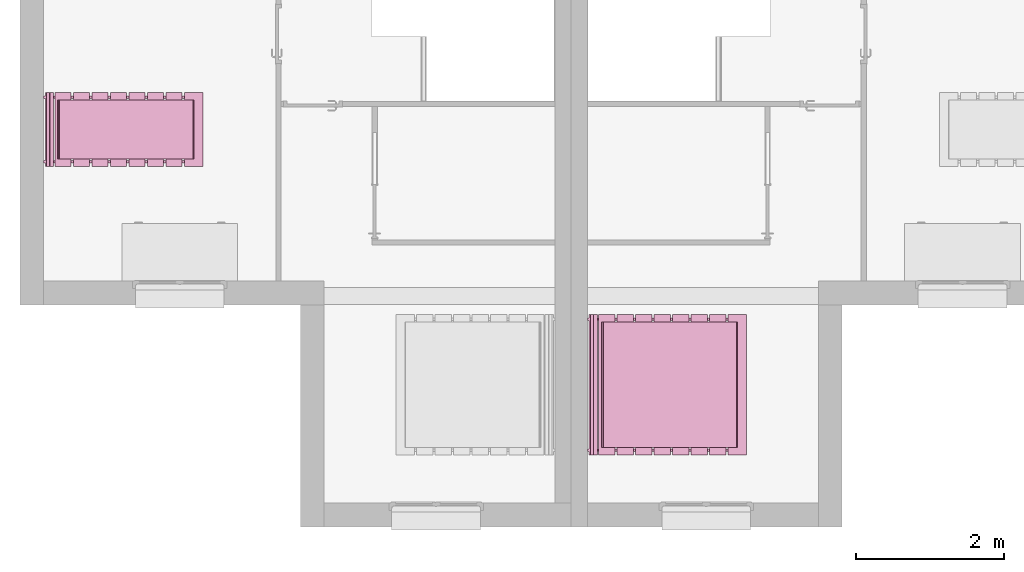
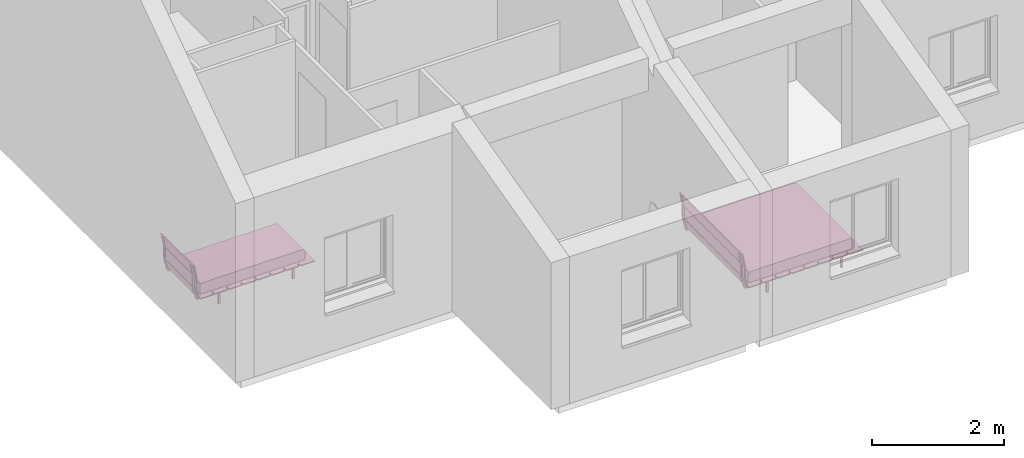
# One storey, part 43 of 50: 2 furnishings.
"""IFC2X3 building model written with IfcOpenShell, lengths in metres."""

from ifc_helpers import new_model, entity, si_unit, converted_unit, derived_unit, direction, frame, frame_2d, origin, origin_2d_with_axis, place, context, subcontext, project, spatial, polyline, circle_curve, parameter, trimmed, segment, composite_curve, rectangle, outline, extrude, source, transform, mapped, material, material_list, type_object, type_shapes, element, save


model = new_model("IFC2X3")

# Units and contexts
model_context = context("Model", 3, precision=1e-05, world=origin(), true_north=direction((6.12303176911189e-17, 1.0)))
context_of_model = context(None, 3, precision=1e-05, world=origin(), true_north=direction((6.12303176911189e-17, 1.0)))
body_context = subcontext(model_context, "Body", "Model", "MODEL_VIEW")
ifc_project = project(units=[si_unit("LENGTHUNIT", "METRE"), si_unit("AREAUNIT", "SQUARE_METRE"), si_unit("VOLUMEUNIT", "CUBIC_METRE"), converted_unit("PLANEANGLEUNIT", "DEGREE", entity("IfcRatioMeasure", 0.0174532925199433), si_unit("PLANEANGLEUNIT", "RADIAN"), dimensions=[0, 0, 0, 0, 0, 0, 0]), si_unit("MASSUNIT", "GRAM", prefix="KILO"), si_unit("TIMEUNIT", "SECOND"), si_unit("FREQUENCYUNIT", "HERTZ"), si_unit("THERMODYNAMICTEMPERATUREUNIT", "DEGREE_CELSIUS"), derived_unit("THERMALTRANSMITTANCEUNIT", [(si_unit("MASSUNIT", "GRAM", prefix="KILO"), 1), (si_unit("THERMODYNAMICTEMPERATUREUNIT", "KELVIN"), -1), (si_unit("TIMEUNIT", "SECOND"), -3)]), derived_unit("VOLUMETRICFLOWRATEUNIT", [(si_unit("LENGTHUNIT", "METRE"), 3), (si_unit("TIMEUNIT", "SECOND"), -1)]), si_unit("ELECTRICCURRENTUNIT", "AMPERE"), si_unit("ELECTRICVOLTAGEUNIT", "VOLT"), si_unit("POWERUNIT", "WATT"), si_unit("FORCEUNIT", "NEWTON", prefix="KILO"), si_unit("ILLUMINANCEUNIT", "LUX"), si_unit("LUMINOUSFLUXUNIT", "LUMEN"), si_unit("LUMINOUSINTENSITYUNIT", "CANDELA"), si_unit("PRESSUREUNIT", "PASCAL")], contexts=[model_context, context_of_model])

# Site, building, storey
site_placement = place(None, origin())
site = spatial("IfcSite", under=ifc_project, at=site_placement, Name="Surface", CompositionType="ELEMENT")
building_placement = place(site_placement, origin())
building = spatial("IfcBuilding", under=site, at=building_placement, CompositionType="ELEMENT")
storey_placement = place(building_placement, frame((0.0, 0.0, 2.82)))
storey = spatial("IfcBuildingStorey", under=building, at=storey_placement, Name="ETAGE", CompositionType="ELEMENT", Elevation=2.82)

# Furnishings
ifc_material_1 = material(Name="Textile - Bleu pâle")
ifc_material_2 = material(Name="Bois - Teck")
ifc_material_3 = material(Name="Plastique - Noir")
ifc_material_list_1 = material_list([ifc_material_1, ifc_material_2, ifc_material_3])
ifc_material_list_2 = material_list([ifc_material_1, ifc_material_2, ifc_material_3])
furniture_type_1 = type_object("IfcFurnitureType", Name="1900 mm x 2000 mm", AssemblyPlace="NOTDEFINED", material=ifc_material_list_2)
shared_shape_1 = source(origin(), body_context, "Body", "SweptSolid", [
    extrude(outline(composite_curve([segment(polyline([(-0.755361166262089, -0.0846796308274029), (0.695178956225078, -0.0846796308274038)]), True, "CONTINUOUS"), segment(polyline([(0.695178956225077, -0.0846796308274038), (0.816394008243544, -0.078623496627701)]), True, "CONTINUOUS"), segment(polyline([(0.816394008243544, -0.078623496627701), (0.842657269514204, -0.0725673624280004)]), True, "CONTINUOUS"), segment(polyline([(0.842657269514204, -0.0725673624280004), (0.856799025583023, -0.0624738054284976)]), True, "CONTINUOUS"), segment(polyline([(0.856799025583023, -0.0624738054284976), (0.862859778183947, -0.0443054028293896)]), True, "CONTINUOUS"), segment(polyline([(0.862859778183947, -0.0443054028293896), (0.866900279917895, -0.0120060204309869)]), True, "CONTINUOUS"), segment(polyline([(0.866900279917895, -0.0120060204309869), (0.866900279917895, 0.0747985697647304)]), True, "CONTINUOUS"), segment(polyline([(0.866900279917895, 0.0747985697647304), (0.862859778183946, 0.105079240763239)]), True, "CONTINUOUS"), segment(polyline([(0.862859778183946, 0.105079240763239), (0.856799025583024, 0.113154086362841)]), True, "CONTINUOUS"), segment(polyline([(0.856799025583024, 0.113154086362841), (0.836596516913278, 0.117191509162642)]), True, "CONTINUOUS"), segment(polyline([(0.836596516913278, 0.117191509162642), (-0.953345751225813, 0.117191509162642)]), True, "CONTINUOUS"), segment(polyline([(-0.953345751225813, 0.117191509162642), (-0.969507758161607, 0.115172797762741)]), True, "CONTINUOUS"), segment(polyline([(-0.969507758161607, 0.115172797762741), (-0.971528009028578, 0.103060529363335)]), True, "CONTINUOUS"), segment(polyline([(-0.971528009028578, 0.103060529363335), (-0.971528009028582, -0.0160434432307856)]), True, "CONTINUOUS"), segment(trimmed(circle_curve(frame_2d((-0.76779044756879, -0.0160434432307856), x_axis=(-1.0, 0.0)), 0.203737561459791), [parameter(360.0)], [parameter(11.4298384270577)], True, "PARAMETER"), True, "CONTINUOUS"), segment(trimmed(circle_curve(frame_2d((-0.944467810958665, -0.0517636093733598), x_axis=(-1.0, 0.0)), 0.0234854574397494), [parameter(11.4298384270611)], [parameter(62.3518913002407)], True, "PARAMETER"), True, "CONTINUOUS"), segment(trimmed(circle_curve(frame_2d((-0.929629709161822, -0.0234388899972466), x_axis=(-1.0, 0.0)), 0.0554613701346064), [parameter(62.35189130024)], [parameter(84.2736549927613)], True, "PARAMETER"), True, "CONTINUOUS"), segment(trimmed(circle_curve(frame_2d((-0.809859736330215, 1.1709442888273), x_axis=(-1.0, 0.0)), 1.25583465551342), [parameter(84.2736549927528)], [parameter(86.5854437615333)], True, "PARAMETER"), True, "CONTINUOUS"), segment(polyline([(-0.884657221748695, -0.0826609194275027), (-0.755361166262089, -0.0846796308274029)]), True, "CONTINUOUS")], self_intersect=False)), frame((-0.85, 1.05656455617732, 0.367191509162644), z_axis=(1.0, 0.0, 0.0), x_axis=(0.0, -1.0, 0.0)), (0.0, 0.0, 1.0), 1.7),
    extrude(rectangle(XDim=1.9, YDim=0.249999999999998, at=origin_2d_with_axis()), frame((0.0, 2.02499620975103, 0.232311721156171), z_axis=(0.0, 0.0, 1.0), x_axis=(-1.0, 0.0, 0.0)), (0.0, 0.0, 1.0), 0.0176882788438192),
    extrude(outline(polyline([(-0.114793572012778, -0.00886960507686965), (0.115119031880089, -0.00886960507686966), (0.115119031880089, 0.00896042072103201), (-0.115444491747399, 0.00877878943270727), (-0.114793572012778, -0.00886960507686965)])), frame((-0.95, 0.051324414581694, 0.783374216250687), z_axis=(1.0, 0.0, 0.0), x_axis=(0.0, -0.182165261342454, 0.983267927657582)), (0.0, 0.0, 1.0), 1.9),
    extrude(rectangle(XDim=1.9, YDim=0.219999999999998, at=frame_2d((0.0, 1.38777878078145e-16), x_axis=(1.0, 0.0))), frame((0.0, 1.75999620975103, 0.232311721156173), z_axis=(0.0, 0.0, 1.0), x_axis=(-1.0, 0.0, 0.0)), (0.0, 0.0, 1.0), 0.0176882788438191),
    extrude(rectangle(XDim=1.9, YDim=0.219999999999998, at=frame_2d((0.0, -1.31838984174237e-16), x_axis=(1.0, 0.0))), frame((0.0, 1.50999620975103, 0.232311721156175), z_axis=(0.0, 0.0, 1.0), x_axis=(-1.0, 0.0, 0.0)), (0.0, 0.0, 1.0), 0.017688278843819),
    extrude(rectangle(XDim=1.9, YDim=0.219999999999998, at=frame_2d((0.0, -1.38777878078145e-16), x_axis=(1.0, 0.0))), frame((0.0, 1.25999620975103, 0.232311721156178), z_axis=(0.0, 0.0, 1.0), x_axis=(-1.0, 0.0, 0.0)), (0.0, 0.0, 1.0), 0.0176882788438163),
    extrude(rectangle(XDim=1.9, YDim=0.219999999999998, at=frame_2d((0.0, 6.93889390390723e-17), x_axis=(1.0, 0.0))), frame((0.0, 1.00999620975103, 0.232311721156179), z_axis=(0.0, 0.0, 1.0), x_axis=(-1.0, 0.0, 0.0)), (0.0, 0.0, 1.0), 0.0176882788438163),
    extrude(rectangle(XDim=1.9, YDim=0.22, at=origin_2d_with_axis()), frame((0.0, 0.759996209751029, 0.232311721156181), z_axis=(0.0, 0.0, 1.0), x_axis=(-1.0, 0.0, 0.0)), (0.0, 0.0, 1.0), 0.0176882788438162),
    extrude(rectangle(XDim=1.9, YDim=0.22, at=origin_2d_with_axis()), frame((0.0, 0.509996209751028, 0.232311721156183), z_axis=(0.0, 0.0, 1.0), x_axis=(-1.0, 0.0, 0.0)), (0.0, 0.0, 1.0), 0.0176882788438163),
    extrude(rectangle(XDim=1.9, YDim=0.22, at=origin_2d_with_axis()), frame((0.0, 0.259996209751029, 0.232311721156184), z_axis=(0.0, 0.0, 1.0), x_axis=(-1.0, 0.0, 0.0)), (0.0, 0.0, 1.0), 0.0176882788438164),
    extrude(rectangle(XDim=1.9, YDim=0.0183684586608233, at=origin_2d_with_axis()), frame((0.0, 0.0735868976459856, 0.443802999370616), z_axis=(0.0, 0.0, 1.0), x_axis=(-1.0, 0.0, 0.0)), (0.0, 0.0, 1.0), 0.214481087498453),
    extrude(outline(polyline([(-0.0941857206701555, -0.00889996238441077), (0.0936128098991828, -0.00889996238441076), (0.0943260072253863, 0.00869876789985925), (-0.0937530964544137, 0.00910115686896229), (-0.0941857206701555, -0.00889996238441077)])), frame((-0.95, 0.100341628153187, 0.340588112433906), z_axis=(1.0, 0.0, 0.0), x_axis=(0.0, -0.268983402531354, 0.96314481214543)), (0.0, 0.0, 1.0), 1.9),
    extrude(rectangle(XDim=0.0299999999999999, YDim=0.0421792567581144, at=frame_2d((0.0, -2.70616862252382e-16), x_axis=(1.0, 0.0))), frame((-0.884999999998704, 1.80439834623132, 0.0)), (0.0, 0.0, 1.0), 0.204645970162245),
    extrude(rectangle(XDim=0.0299999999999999, YDim=0.0421792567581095, at=frame_2d((0.0, -3.29597460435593e-17), x_axis=(1.0, 0.0))), frame((-0.884999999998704, 0.505017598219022, 0.0)), (0.0, 0.0, 1.0), 0.204645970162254),
    extrude(rectangle(XDim=0.0299999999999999, YDim=0.0421792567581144, at=frame_2d((1.35308431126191e-16, 0.0), x_axis=(1.0, 0.0))), frame((0.885000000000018, 1.80439834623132, 0.0), z_axis=(0.0, 0.0, 1.0), x_axis=(-1.0, 0.0, 0.0)), (0.0, 0.0, 1.0), 0.204645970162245),
    extrude(rectangle(XDim=0.0299999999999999, YDim=0.0421792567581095, at=frame_2d((1.35308431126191e-16, -3.29597460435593e-17), x_axis=(1.0, 0.0))), frame((0.885000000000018, 0.505017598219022, 0.0), z_axis=(0.0, 0.0, 1.0), x_axis=(-1.0, 0.0, 0.0)), (0.0, 0.0, 1.0), 0.204645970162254),
    extrude(outline(composite_curve([segment(polyline([(-0.499010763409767, 0.346366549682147), (-0.499569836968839, 0.324560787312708)]), True, "CONTINUOUS"), segment(polyline([(-0.499569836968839, 0.324560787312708), (-0.2642053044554, 0.324063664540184)]), True, "CONTINUOUS"), segment(polyline([(-0.2642053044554, 0.324063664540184), (-0.0414406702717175, 0.365029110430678)]), True, "CONTINUOUS"), segment(polyline([(-0.0414406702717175, 0.365029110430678), (0.170125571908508, 0.346291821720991)]), True, "CONTINUOUS"), segment(polyline([(0.170125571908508, 0.346291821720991), (0.528537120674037, -1.59768807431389)]), True, "CONTINUOUS"), segment(polyline([(0.528537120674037, -1.59768807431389), (0.549932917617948, -1.56608457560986)]), True, "CONTINUOUS"), segment(polyline([(0.549932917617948, -1.56608457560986), (0.19740578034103, 0.350911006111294)]), True, "CONTINUOUS"), segment(trimmed(circle_curve(frame_2d((0.17103903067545, 0.346062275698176), x_axis=(0.180862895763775, -0.983508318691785)), 0.0268088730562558), [parameter(90.0)], [parameter(167.367566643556)], True, "PARAMETER"), True, "CONTINUOUS"), segment(polyline([(0.172073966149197, 0.372851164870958), (-0.0455420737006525, 0.387331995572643)]), True, "CONTINUOUS"), segment(polyline([(-0.0455420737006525, 0.387331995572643), (-0.268306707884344, 0.346366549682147)]), True, "CONTINUOUS"), segment(polyline([(-0.268306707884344, 0.346366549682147), (-0.499010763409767, 0.346366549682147)]), True, "CONTINUOUS")], self_intersect=False)), frame((-0.899999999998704, 0.430906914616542, 0.462262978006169), z_axis=(-1.0, 0.0, 0.0), x_axis=(0.0, 0.180862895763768, -0.983508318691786)), (0.0, 0.0, -1.0), 0.0299999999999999),
    extrude(outline(composite_curve([segment(polyline([(-0.499010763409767, 0.346366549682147), (-0.49956983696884, 0.324560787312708)]), True, "CONTINUOUS"), segment(polyline([(-0.49956983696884, 0.324560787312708), (-0.2642053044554, 0.324063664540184)]), True, "CONTINUOUS"), segment(polyline([(-0.2642053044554, 0.324063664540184), (-0.0414406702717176, 0.365029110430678)]), True, "CONTINUOUS"), segment(polyline([(-0.0414406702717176, 0.365029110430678), (0.170125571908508, 0.346291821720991)]), True, "CONTINUOUS"), segment(polyline([(0.170125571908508, 0.346291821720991), (0.528537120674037, -1.59768807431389)]), True, "CONTINUOUS"), segment(polyline([(0.528537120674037, -1.59768807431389), (0.549932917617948, -1.56608457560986)]), True, "CONTINUOUS"), segment(polyline([(0.549932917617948, -1.56608457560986), (0.19740578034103, 0.350911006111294)]), True, "CONTINUOUS"), segment(trimmed(circle_curve(frame_2d((0.17103903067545, 0.346062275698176), x_axis=(0.180862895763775, -0.983508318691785)), 0.0268088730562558), [parameter(90.0)], [parameter(167.367566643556)], True, "PARAMETER"), True, "CONTINUOUS"), segment(polyline([(0.172073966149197, 0.372851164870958), (-0.0455420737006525, 0.387331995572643)]), True, "CONTINUOUS"), segment(polyline([(-0.0455420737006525, 0.387331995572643), (-0.268306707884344, 0.346366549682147)]), True, "CONTINUOUS"), segment(polyline([(-0.268306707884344, 0.346366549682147), (-0.499010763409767, 0.346366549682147)]), True, "CONTINUOUS")], self_intersect=False)), frame((0.870000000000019, 0.430906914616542, 0.462262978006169), z_axis=(-1.0, 0.0, 0.0), x_axis=(0.0, 0.180862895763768, -0.983508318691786)), (0.0, 0.0, -1.0), 0.0299999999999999),
])
type_shapes(furniture_type_1, [shared_shape_1])
furnishing_1_placement = place(storey_placement, frame((69.0546263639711, 78.8077566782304, 0.0199999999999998), z_axis=(0.0, 0.0, 1.0), x_axis=(0.0, -1.0, 0.0)))
element("IfcFurnishingElement", 1, at=furnishing_1_placement, inside=storey, type_object=furniture_type_1, material=ifc_material_list_1, Name="Lit à lattes:1900 mm x 2000 mm", ObjectType="1900 mm x 2000 mm", context=body_context, shape_type="MappedRepresentation", body=[
    mapped(shared_shape_1, transform((0.0, 0.0, 0.0), scale=1.0)),
])
ifc_material_list_3 = material_list([ifc_material_1, ifc_material_2, ifc_material_3])
ifc_material_list_4 = material_list([ifc_material_1, ifc_material_2, ifc_material_3])
furniture_type_2 = type_object("IfcFurnitureType", Name="1000 mm x 2000 mm 3", AssemblyPlace="NOTDEFINED", material=ifc_material_list_4)
shared_shape_2 = source(origin(), body_context, "Body", "SweptSolid", [
    extrude(outline(composite_curve([segment(polyline([(0.753947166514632, -0.0964613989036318), (0.883258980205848, -0.0964613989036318)]), True, "CONTINUOUS"), segment(trimmed(circle_curve(frame_2d((0.82804087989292, 1.1581587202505), x_axis=(0.999878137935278, -0.0156111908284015)), 1.25583465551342), [parameter(273.414556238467)], [parameter(275.726345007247)], True, "PARAMETER"), True, "CONTINUOUS"), segment(trimmed(circle_curve(frame_2d((0.929150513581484, -0.0379486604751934), x_axis=(0.999878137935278, -0.0156111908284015)), 0.0554613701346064), [parameter(275.726345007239)], [parameter(297.64810869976)], True, "PARAMETER"), True, "CONTINUOUS"), segment(trimmed(circle_curve(frame_2d((0.943544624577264, -0.0665015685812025), x_axis=(0.999878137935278, -0.0156111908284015)), 0.0234854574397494), [parameter(297.648108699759)], [parameter(348.570161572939)], True, "PARAMETER"), True, "CONTINUOUS"), segment(trimmed(circle_curve(frame_2d((0.767446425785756, -0.0280276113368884), x_axis=(0.999878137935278, -0.0156111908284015)), 0.203737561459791), [parameter(348.570161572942)], [parameter(3.56222124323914e-13)], True, "PARAMETER"), True, "CONTINUOUS"), segment(polyline([(0.971159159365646, -0.0312081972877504), (0.97301851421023, 0.0878812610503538)]), True, "CONTINUOUS"), segment(polyline([(0.97301851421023, 0.0878812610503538), (0.971187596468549, 0.10002359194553)]), True, "CONTINUOUS"), segment(polyline([(0.971187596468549, 0.10002359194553), (0.955059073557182, 0.102294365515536)]), True, "CONTINUOUS"), segment(polyline([(0.955059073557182, 0.102294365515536), (-0.834665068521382, 0.130237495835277)]), True, "CONTINUOUS"), segment(polyline([(-0.834665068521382, 0.130237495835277), (-0.854928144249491, 0.12651595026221)]), True, "CONTINUOUS"), segment(polyline([(-0.854928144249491, 0.12651595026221), (-0.861114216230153, 0.118536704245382)]), True, "CONTINUOUS"), segment(polyline([(-0.861114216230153, 0.118536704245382), (-0.865626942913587, 0.0883228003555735)]), True, "CONTINUOUS"), segment(polyline([(-0.865626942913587, 0.0883228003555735), (-0.866982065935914, 0.00152878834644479)]), True, "CONTINUOUS"), segment(polyline([(-0.866982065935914, 0.00152878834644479), (-0.863446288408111, -0.0308297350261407)]), True, "CONTINUOUS"), segment(polyline([(-0.863446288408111, -0.0308297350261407), (-0.857669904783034, -0.0490905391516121)]), True, "CONTINUOUS"), segment(polyline([(-0.857669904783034, -0.0490905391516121), (-0.843687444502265, -0.0594036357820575)]), True, "CONTINUOUS"), segment(polyline([(-0.843687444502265, -0.0594036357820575), (-0.817521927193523, -0.0658690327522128)]), True, "CONTINUOUS"), segment(polyline([(-0.817521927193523, -0.0658690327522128), (-0.696416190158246, -0.0738167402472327)]), True, "CONTINUOUS"), segment(polyline([(-0.696416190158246, -0.0738167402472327), (0.753947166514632, -0.0964613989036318)]), True, "CONTINUOUS")], self_intersect=False)), frame((-0.4, -1.05656455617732, 0.367191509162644), z_axis=(1.0, 0.0, 0.0), x_axis=(0.0, -0.999878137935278, -0.0156111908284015)), (0.0, 0.0, 1.0), 0.799999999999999),
    extrude(rectangle(XDim=0.249999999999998, YDim=1.0, at=origin_2d_with_axis()), frame((0.0, -2.02499620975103, 0.232311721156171), z_axis=(0.0, 0.0, 1.0), x_axis=(0.0, 1.0, 0.0)), (0.0, 0.0, 1.0), 0.0176882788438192),
    extrude(outline(polyline([(-0.00463256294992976, -0.115042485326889), (0.0130278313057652, -0.115042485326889), (0.00471132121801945, 0.115371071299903), (-0.0131065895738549, 0.114713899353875), (-0.00463256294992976, -0.115042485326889)])), frame((-0.5, -0.051324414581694, 0.783374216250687), z_axis=(1.0, 0.0, 0.0), x_axis=(0.0, 0.975885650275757, -0.218282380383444)), (0.0, 0.0, 1.0), 0.999999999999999),
    extrude(rectangle(XDim=0.219999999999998, YDim=1.0, at=frame_2d((-1.38777878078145e-16, 0.0), x_axis=(1.0, 0.0))), frame((0.0, -1.75999620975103, 0.232311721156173), z_axis=(0.0, 0.0, 1.0), x_axis=(0.0, 1.0, 0.0)), (0.0, 0.0, 1.0), 0.0176882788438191),
    extrude(rectangle(XDim=0.219999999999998, YDim=1.0, at=frame_2d((-1.31838984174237e-16, 0.0), x_axis=(1.0, 0.0))), frame((0.0, -1.50999620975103, 0.232311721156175), z_axis=(0.0, 0.0, 1.0), x_axis=(0.0, 1.0, 0.0)), (0.0, 0.0, 1.0), 0.017688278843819),
    extrude(rectangle(XDim=0.219999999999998, YDim=1.0, at=frame_2d((-1.38777878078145e-16, 0.0), x_axis=(1.0, 0.0))), frame((0.0, -1.25999620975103, 0.232311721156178), z_axis=(0.0, 0.0, 1.0), x_axis=(0.0, 1.0, 0.0)), (0.0, 0.0, 1.0), 0.0176882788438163),
    extrude(rectangle(XDim=0.219999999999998, YDim=1.0, at=frame_2d((6.93889390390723e-17, 0.0), x_axis=(1.0, 0.0))), frame((0.0, -1.00999620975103, 0.232311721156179), z_axis=(0.0, 0.0, 1.0), x_axis=(0.0, 1.0, 0.0)), (0.0, 0.0, 1.0), 0.0176882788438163),
    extrude(rectangle(XDim=0.22, YDim=1.0, at=origin_2d_with_axis()), frame((0.0, -0.759996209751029, 0.232311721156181), z_axis=(0.0, 0.0, 1.0), x_axis=(0.0, 1.0, 0.0)), (0.0, 0.0, 1.0), 0.0176882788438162),
    extrude(rectangle(XDim=0.22, YDim=1.0, at=origin_2d_with_axis()), frame((0.0, -0.509996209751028, 0.232311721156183), z_axis=(0.0, 0.0, 1.0), x_axis=(0.0, 1.0, 0.0)), (0.0, 0.0, 1.0), 0.0176882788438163),
    extrude(rectangle(XDim=0.22, YDim=1.0, at=origin_2d_with_axis()), frame((0.0, -0.259996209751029, 0.232311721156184), z_axis=(0.0, 0.0, 1.0), x_axis=(0.0, 1.0, 0.0)), (0.0, 0.0, 1.0), 0.0176882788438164),
    extrude(rectangle(XDim=0.0183684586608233, YDim=1.0, at=origin_2d_with_axis()), frame((0.0, -0.0735868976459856, 0.443802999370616), z_axis=(0.0, 0.0, 1.0), x_axis=(0.0, 1.0, 0.0)), (0.0, 0.0, 1.0), 0.214481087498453),
    extrude(outline(polyline([(-0.0111603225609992, -0.093944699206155), (0.00684599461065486, -0.093944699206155), (0.0109625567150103, 0.0940897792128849), (-0.00664822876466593, 0.093799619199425), (-0.0111603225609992, -0.093944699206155)])), frame((-0.5, -0.100341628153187, 0.340588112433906), z_axis=(1.0, 0.0, 0.0), x_axis=(0.0, 0.969329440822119, -0.245764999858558)), (0.0, 0.0, 1.0), 1.0),
    extrude(rectangle(XDim=0.0421792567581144, YDim=0.03, at=frame_2d((0.0, -3.38271077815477e-17), x_axis=(1.0, 0.0))), frame((-0.434999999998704, -1.80439834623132, 0.0), z_axis=(0.0, 0.0, 1.0), x_axis=(0.0, -1.0, 0.0)), (0.0, 0.0, 1.0), 0.204645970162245),
    extrude(rectangle(XDim=0.0421792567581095, YDim=0.03, at=frame_2d((3.29597460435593e-17, -3.38271077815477e-17), x_axis=(1.0, 0.0))), frame((-0.434999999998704, -0.505017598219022, 0.0), z_axis=(0.0, 0.0, 1.0), x_axis=(0.0, -1.0, 0.0)), (0.0, 0.0, 1.0), 0.204645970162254),
    extrude(rectangle(XDim=0.0421792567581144, YDim=0.03, at=frame_2d((2.70616862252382e-16, -3.38271077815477e-17), x_axis=(1.0, 0.0))), frame((0.435000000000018, -1.80439834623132, 0.0), z_axis=(0.0, 0.0, 1.0), x_axis=(0.0, 1.0, 0.0)), (0.0, 0.0, 1.0), 0.204645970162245),
    extrude(rectangle(XDim=0.0421792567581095, YDim=0.03, at=frame_2d((-3.29597460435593e-17, -3.38271077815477e-17), x_axis=(1.0, 0.0))), frame((0.435000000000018, -0.505017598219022, 0.0), z_axis=(0.0, 0.0, 1.0), x_axis=(0.0, 1.0, 0.0)), (0.0, 0.0, 1.0), 0.204645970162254),
    extrude(outline(composite_curve([segment(polyline([(-0.333462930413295, -0.507724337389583), (-0.311650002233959, -0.507724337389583)]), True, "CONTINUOUS"), segment(polyline([(-0.311650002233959, -0.507724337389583), (-0.317185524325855, -0.272424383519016)]), True, "CONTINUOUS"), segment(polyline([(-0.317185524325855, -0.272424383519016), (-0.363847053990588, -0.050782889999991)]), True, "CONTINUOUS"), segment(polyline([(-0.363847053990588, -0.050782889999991), (-0.350538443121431, 0.161194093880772)]), True, "CONTINUOUS"), segment(polyline([(-0.350538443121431, 0.161194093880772), (1.5836166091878, 0.569312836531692)]), True, "CONTINUOUS"), segment(polyline([(1.5836166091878, 0.569312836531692), (1.55147511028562, 0.589891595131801)]), True, "CONTINUOUS"), segment(polyline([(1.55147511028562, 0.589891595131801), (-0.355855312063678, 0.188346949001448)]), True, "CONTINUOUS"), segment(trimmed(circle_curve(frame_2d((-0.350332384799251, 0.162113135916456), x_axis=(0.978549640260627, 0.206011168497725)), 0.0268088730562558), [parameter(90.0)], [parameter(167.367566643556)], True, "PARAMETER"), True, "CONTINUOUS"), segment(polyline([(-0.377138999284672, 0.162461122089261), (-0.386037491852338, -0.0554545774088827)]), True, "CONTINUOUS"), segment(polyline([(-0.386037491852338, -0.0554545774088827), (-0.339375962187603, -0.277096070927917)]), True, "CONTINUOUS"), segment(polyline([(-0.339375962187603, -0.277096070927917), (-0.333462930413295, -0.507724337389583)]), True, "CONTINUOUS")], self_intersect=False)), frame((-0.449999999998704, -0.430906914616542, 0.462262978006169), z_axis=(1.0, 0.0, 0.0), x_axis=(0.0, -0.978549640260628, 0.206011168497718)), (0.0, 0.0, 1.0), 0.0299999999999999),
    extrude(outline(composite_curve([segment(polyline([(-0.333462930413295, -0.507724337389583), (-0.311650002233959, -0.507724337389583)]), True, "CONTINUOUS"), segment(polyline([(-0.311650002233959, -0.507724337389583), (-0.317185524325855, -0.272424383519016)]), True, "CONTINUOUS"), segment(polyline([(-0.317185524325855, -0.272424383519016), (-0.363847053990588, -0.0507828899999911)]), True, "CONTINUOUS"), segment(polyline([(-0.363847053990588, -0.0507828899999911), (-0.350538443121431, 0.161194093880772)]), True, "CONTINUOUS"), segment(polyline([(-0.350538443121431, 0.161194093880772), (1.5836166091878, 0.569312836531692)]), True, "CONTINUOUS"), segment(polyline([(1.5836166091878, 0.569312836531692), (1.55147511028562, 0.5898915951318)]), True, "CONTINUOUS"), segment(polyline([(1.55147511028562, 0.5898915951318), (-0.355855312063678, 0.188346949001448)]), True, "CONTINUOUS"), segment(trimmed(circle_curve(frame_2d((-0.350332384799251, 0.162113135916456), x_axis=(0.978549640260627, 0.206011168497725)), 0.0268088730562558), [parameter(90.0)], [parameter(167.367566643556)], True, "PARAMETER"), True, "CONTINUOUS"), segment(polyline([(-0.377138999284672, 0.162461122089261), (-0.386037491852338, -0.0554545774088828)]), True, "CONTINUOUS"), segment(polyline([(-0.386037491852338, -0.0554545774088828), (-0.339375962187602, -0.277096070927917)]), True, "CONTINUOUS"), segment(polyline([(-0.339375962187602, -0.277096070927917), (-0.333462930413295, -0.507724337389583)]), True, "CONTINUOUS")], self_intersect=False)), frame((0.420000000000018, -0.430906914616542, 0.462262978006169), z_axis=(1.0, 0.0, 0.0), x_axis=(0.0, -0.978549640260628, 0.206011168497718)), (0.0, 0.0, 1.0), 0.0299999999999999),
])
type_shapes(furniture_type_2, [shared_shape_2])
furnishing_2_placement = place(storey_placement, frame((61.7063634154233, 82.2577566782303, 0.0199999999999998), z_axis=(0.0, 0.0, 1.0), x_axis=(0.0, 1.0, 0.0)))
element("IfcFurnishingElement", 2, at=furnishing_2_placement, inside=storey, type_object=furniture_type_2, material=ifc_material_list_3, Name="Lit à lattes:1000 mm x 2000 mm 3", ObjectType="1000 mm x 2000 mm 3", context=body_context, shape_type="MappedRepresentation", body=[
    mapped(shared_shape_2, transform((0.0, 0.0, 0.0), scale=1.0)),
])

save(model, "model.ifc")
